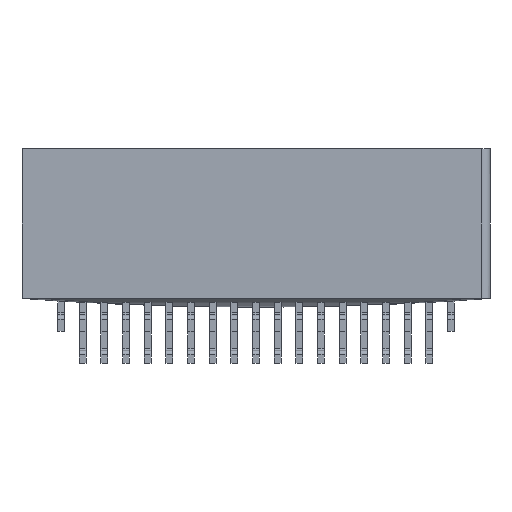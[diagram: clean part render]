
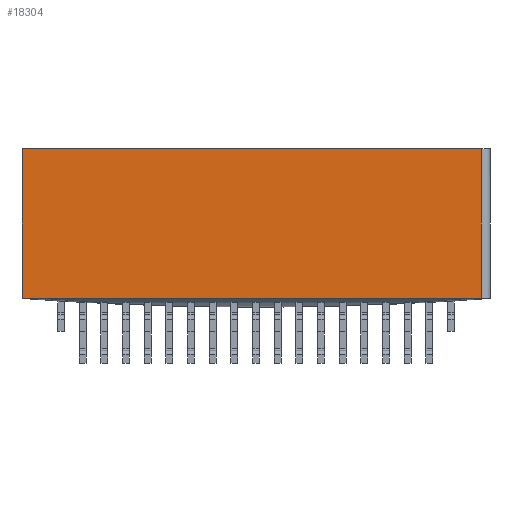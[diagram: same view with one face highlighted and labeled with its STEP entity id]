
A CAD part, front view. The second image highlights one B-rep face of the part: STEP entity #18304.
In plain terms, the highlighted planar face has unit normal (0, -1, 0).
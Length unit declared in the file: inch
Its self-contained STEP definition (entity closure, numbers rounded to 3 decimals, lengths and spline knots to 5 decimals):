
#340 = DIRECTION ( 'NONE',  ( 0., -1., 0. ) ) ;
#639 = VERTEX_POINT ( 'NONE', #20697 ) ;
#2503 = PLANE ( 'NONE',  #21449 ) ;
#3688 = CARTESIAN_POINT ( 'NONE',  ( -0.27, -0.035, 0.0865 ) ) ;
#4333 = DIRECTION ( 'NONE',  ( 0., 0., 1. ) ) ;
#6837 = EDGE_CURVE ( 'NONE', #27576, #13209, #30027, .T. ) ;
#7201 = EDGE_CURVE ( 'NONE', #13209, #15393, #15857, .T. ) ;
#8351 = LINE ( 'NONE', #13408, #14612 ) ;
#9239 = CARTESIAN_POINT ( 'NONE',  ( -0.345, -0.035, -0.0865 ) ) ;
#9272 = VECTOR ( 'NONE', #25084, 39.37008 ) ;
#9444 = CARTESIAN_POINT ( 'NONE',  ( -0.345, -0.035, -0.0865 ) ) ;
#11571 = EDGE_CURVE ( 'NONE', #15393, #639, #8351, .T. ) ;
#13209 = VERTEX_POINT ( 'NONE', #17206 ) ;
#13408 = CARTESIAN_POINT ( 'NONE',  ( -0.345, -0.035, 0.0865 ) ) ;
#14612 = VECTOR ( 'NONE', #15782, 39.37008 ) ;
#14790 = LINE ( 'NONE', #25186, #9272 ) ;
#15101 = VECTOR ( 'NONE', #4333, 39.37008 ) ;
#15393 = VERTEX_POINT ( 'NONE', #3688 ) ;
#15472 = ORIENTED_EDGE ( 'NONE', *, *, #6837, .F. ) ;
#15782 = DIRECTION ( 'NONE',  ( 1., 0., 0. ) ) ;
#15857 = LINE ( 'NONE', #16050, #15101 ) ;
#16050 = CARTESIAN_POINT ( 'NONE',  ( -0.27, -0.035, -0.0865 ) ) ;
#16751 = DIRECTION ( 'NONE',  ( 0., 0., -1. ) ) ;
#17206 = CARTESIAN_POINT ( 'NONE',  ( -0.27, -0.035, -0.0865 ) ) ;
#17781 = ORIENTED_EDGE ( 'NONE', *, *, #11571, .F. ) ;
#18304 = ADVANCED_FACE ( 'NONE', ( #27092 ), #2503, .T. ) ;
#18528 = CARTESIAN_POINT ( 'NONE',  ( 0.26, -0.035, -0.0865 ) ) ;
#18556 = EDGE_LOOP ( 'NONE', ( #25101, #15472, #28211, #17781 ) ) ;
#20697 = CARTESIAN_POINT ( 'NONE',  ( 0.26, -0.035, 0.0865 ) ) ;
#21449 = AXIS2_PLACEMENT_3D ( 'NONE', #9444, #340, #16751 ) ;
#23271 = DIRECTION ( 'NONE',  ( -1., 0., 0. ) ) ;
#23893 = VECTOR ( 'NONE', #23271, 39.37008 ) ;
#25084 = DIRECTION ( 'NONE',  ( 0., 0., 1. ) ) ;
#25101 = ORIENTED_EDGE ( 'NONE', *, *, #7201, .F. ) ;
#25186 = CARTESIAN_POINT ( 'NONE',  ( 0.26, -0.035, 0.0865 ) ) ;
#27092 = FACE_OUTER_BOUND ( 'NONE', #18556, .T. ) ;
#27576 = VERTEX_POINT ( 'NONE', #18528 ) ;
#28211 = ORIENTED_EDGE ( 'NONE', *, *, #28935, .T. ) ;
#28935 = EDGE_CURVE ( 'NONE', #27576, #639, #14790, .T. ) ;
#30027 = LINE ( 'NONE', #9239, #23893 ) ;
